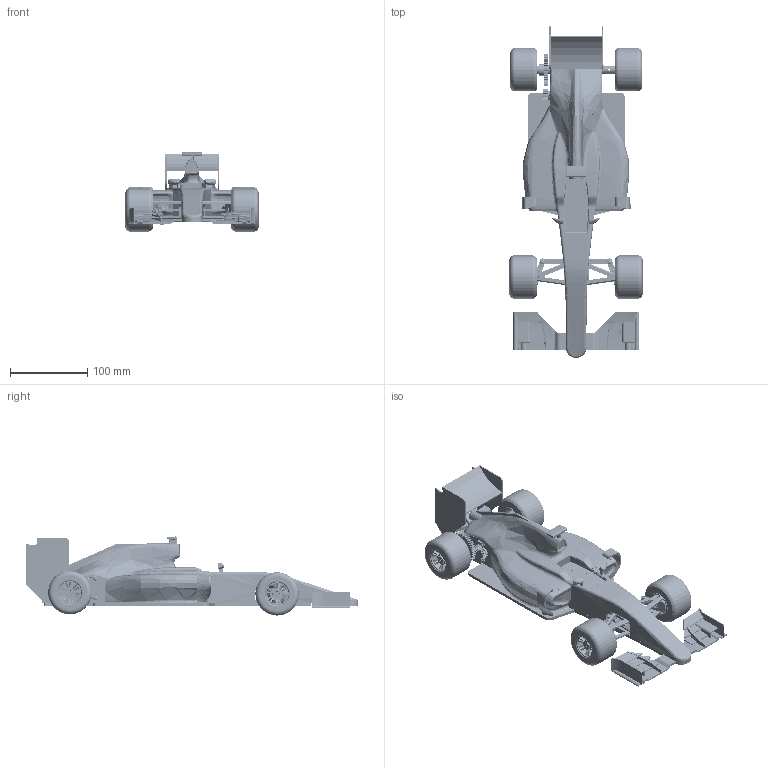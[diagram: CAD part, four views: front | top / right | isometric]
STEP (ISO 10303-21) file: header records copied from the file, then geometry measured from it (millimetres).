
FILE_DESCRIPTION(/* description */ (''),/* implementation_level */ '2;1');
FILE_NAME(/* name */ 'C:/Users/danie_000/Dropbox/OpenRC F1 Documentation/F1 Assembly v7.step',/* time_stamp */ '2015-12-20T16:38:49+01:00',/* author */ (''),/* organization */ (''),/* preprocessor_version */ 'ST-DEVELOPER v16.2',/* originating_system */ 'Autodesk Translation Framework v4.3.0.2260',/* authorisation */ '');
FILE_SCHEMA (('AUTOMOTIVE_DESIGN { 1 0 10303 214 3 1 1 }'));
Length unit declared in the file: centimetre
Products named in the file (60): F1 Assembly v7; Body Assembly v12; Body v255; Component1; Component2; Component3; Component4; Component5; Component6; Component7; Lock Pin v3; Chassie Assembly v12; Front BOM Assy v44; Front Upper BOM v11; Front BOM Block v15; Front Lower BOM v52; Front Wheel Assy v20; Front Wheel Assy v20_1; Front Rim v9; Bearing 8x12x3,5 v1 v2; Front Axle v5; Front Wheel Hub v18; MF6S 8.8 FZB M3X10 v1; Wheel Lock Nut v6; Steering Push Pin v7; Servo Saver v21; Servo Saver Upper; Servo Saver Lower; HSC FZB M3x8 v2; Chassie v88; Component1_1; Rear Axle Assy v75; Rear Axle v6; F1 Spur Gear v3 v8; Component12; Rear Wheel Assy v9; Rear Wheel Assy v9_1; Tire v6; Rear Rim v6; Wheel Lock Nut v3 v3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
Assembly tree (132 placements, depth 6):
  F1 Assembly v7
    Body Assembly v12
      M6M DIN 934 M3 v2  x13
      Body v255
        Component1
        Component2
        Component3
        Component4
        Component5
        Component6
        Component7
      MF6S 8.8 FZB M3X8 v1 v1  x6
      Lock Pin v3
    Chassie Assembly v12
      Front BOM Assy v44
        Front Upper BOM v11
        Front BOM Block v15
        M6M DIN 934 M3 v2  x4
        MF6S 8.8 FZB M3X8 v1 v1  x8
        Front Lower BOM v52
        Front Wheel Assy v20
          Bearing 8x12x3,5 v1 v2  x2
          Front Rim v9
          Front Axle v5
          Front Wheel Hub v18
          MF6S 8.8 FZB M3X10 v1
          Wheel Lock Nut v6
          MF6S 8.8 FZB M3X8 v1 v1
          Tire v6
        Front Wheel Assy v20_1
          Bearing 8x12x3,5 v1 v2  x2
          Front Rim v9
          Front Axle v5
          Front Wheel Hub v18
          MF6S 8.8 FZB M3X10 v1
          Wheel Lock Nut v6
          MF6S 8.8 FZB M3X8 v1 v1
          Tire v6
        Steering Push Pin v7  x2
        Servo Saver v21
          Servo Saver Upper
          Servo Saver Lower
        HSC FZB M3x8 v2  x3
      Chassie v88
        Component1_1
      Rear Axle Assy v75
        Rear Axle v6
        F1 Spur Gear v3 v8
          Component12
        Rear Wheel Assy v9
          Tire v6
          Rear Rim v6
        Rear Wheel Assy v9_1
          Tire v6
          Rear Rim v6
        Wheel Lock Nut v3 v3  x2
        MF6S 8.8 FZB M3X8 v1 v1  x2
        Motor & Gear Assy v12
          TrackStar 1/10 21.5T Brushless Motor v6
          Spur Gear 14T v8
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Bounding box: 172 x 428.77 x 102.2 mm (x, y, z)
Volume: 860359.9 mm3; surface area: 425257.1 mm2
Topology: 171 solids, 178 shells, 22917 faces, 62418 edges, 41107 vertices
Faces by surface type: bspline 10951, plane 7523, cone 2047, cylinder 1531, torus 815, sphere 50
Full cylindrical faces by diameter (mm): 1.2 x1, 1.5 x5, 1.85 x2, 2 x5, 2.459 x69, 2.8 x2, 2.9 x13, 3 x577, 3.1 x4, 3.175 x1, 3.3 x60, 3.5 x8, 5 x1, 5.7 x5, 6 x37, 6.5 x1, 6.9 x1, 7 x1, 8 x11, 9 x8, 9.5 x2, 11 x10, 11.5 x5, 12 x6, 12.2 x2, 12.4 x4, 13.5 x4, 14 x4, 15 x1, 16 x1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
Entity records: 617045 total; most frequent: CARTESIAN_POINT 280491, ORIENTED_EDGE 84146, EDGE_CURVE 42067, DIRECTION 40750, VERTEX_POINT 28146, LINE 21942, VECTOR 21942, B_SPLINE_CURVE_WITH_KNOTS 17737
